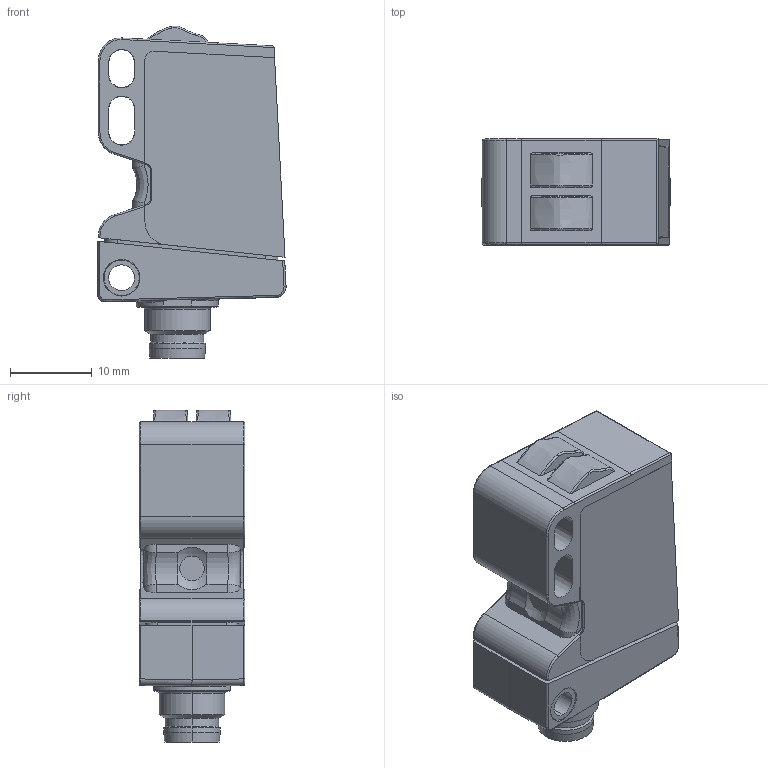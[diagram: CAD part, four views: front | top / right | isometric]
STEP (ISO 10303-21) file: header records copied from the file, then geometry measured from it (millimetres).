
FILE_DESCRIPTION((''),'2;1');
FILE_NAME('2031836','2022-01-12T07:29:55',('t.hampe'),(''),'CREO PARAMETRIC BY PTC INC, 2019292','CREO PARAMETRIC BY PTC INC, 2019292','');
FILE_SCHEMA(('AUTOMOTIVE_DESIGN { 1 0 10303 214 1 1 1 1 }'));
Length unit declared in the file: millimetre
Products named in the file (1): 2031836
Bounding box: 23 x 12.9 x 40.56 mm (x, y, z)
Volume: 4212.4 mm3; surface area: 6564.4 mm2
Topology: 1 solids, 3 shells, 840 faces, 2383 edges, 1565 vertices
Faces by surface type: plane 495, cylinder 204, cone 61, bspline 52, torus 19, sphere 5, extrusion 4
Entity records: 43742 total; most frequent: CARTESIAN_POINT 15289, ORIENTED_EDGE 4758, DIRECTION 3828, PRESENTATION_STYLE_ASSIGNMENT 2381, STYLED_ITEM 2381, CURVE_STYLE 2380, EDGE_CURVE 2379, VERTEX_POINT 1565
